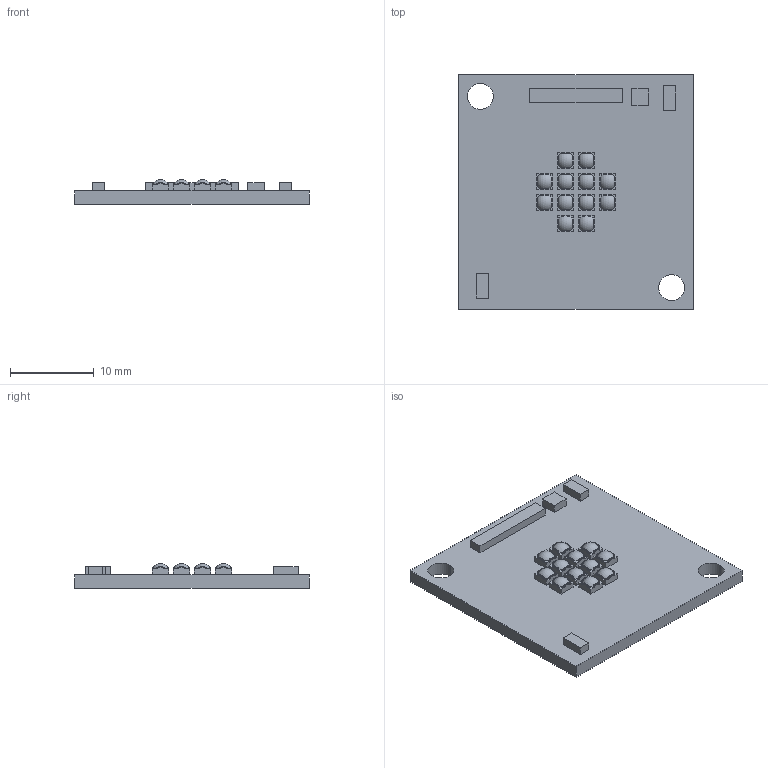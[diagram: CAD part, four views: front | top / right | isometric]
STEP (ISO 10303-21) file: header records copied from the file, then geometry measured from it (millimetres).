
FILE_DESCRIPTION((''),'2;1');
FILE_NAME('V28L09SA2_06072021_10-53-02_ASM','2021-06-07T',('SYSTEM'),(''),'PRO/ENGINEER BY PARAMETRIC TECHNOLOGY CORPORATION, 2009360','PRO/ENGINEER BY PARAMETRIC TECHNOLOGY CORPORATION, 2009360','');
FILE_SCHEMA(('AUTOMOTIVE_DESIGN_CC2 { 1 2 10303 214 -1 1 5 2 }'));
Products named in the file (6): V28L09SA2_06072021_10-53-02; 2020; FIDUCIAL_R0_5MM; ARKALUMEN_LOGO_11MM; C1919_EC; V28L09SA2_06072021_10-53-02_ASM
Assembly tree (17 placements, depth 2):
  V28L09SA2_06072021_10-53-02_ASM
    V28L09SA2_06072021_10-53-02
    2020  x12
    FIDUCIAL_R0_5MM
    ARKALUMEN_LOGO_11MM
    C1919_EC  x2
Bounding box: 28 x 28 x 2.94 mm (x, y, z)
Volume: 1308 mm3; surface area: 2046.4 mm2
Topology: 17 solids, 17 shells, 1030 faces, 2616 edges, 1656 vertices
Faces by surface type: plane 378, cylinder 352, bspline 192, torus 96, sphere 12
Entity records: 4101 total; most frequent: CARTESIAN_POINT 1115, DIRECTION 552, ORIENTED_EDGE 544, EDGE_CURVE 272, AXIS2_PLACEMENT_3D 202, VERTEX_POINT 174, VECTOR 148, LINE 148
